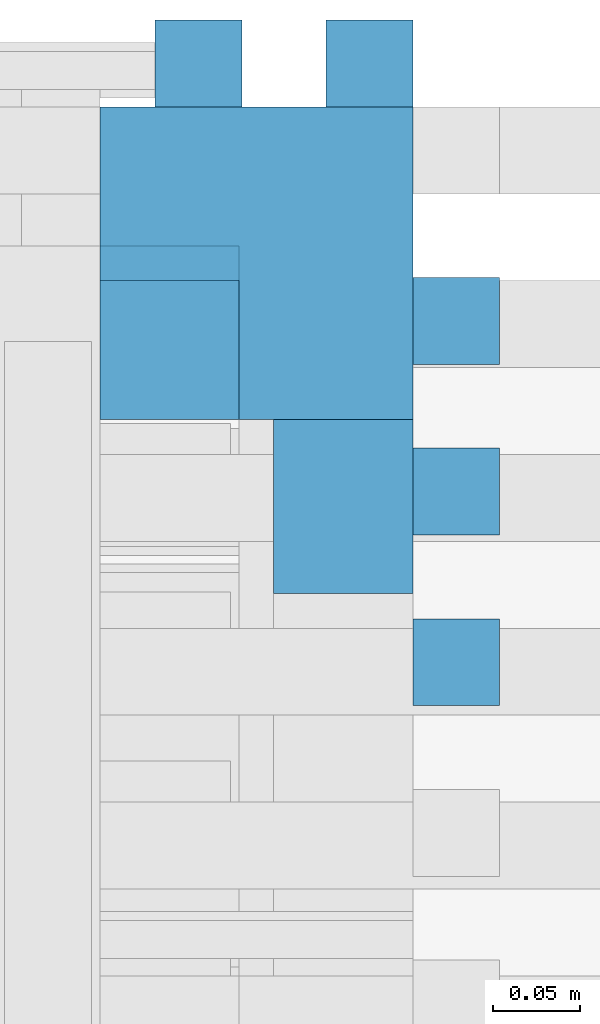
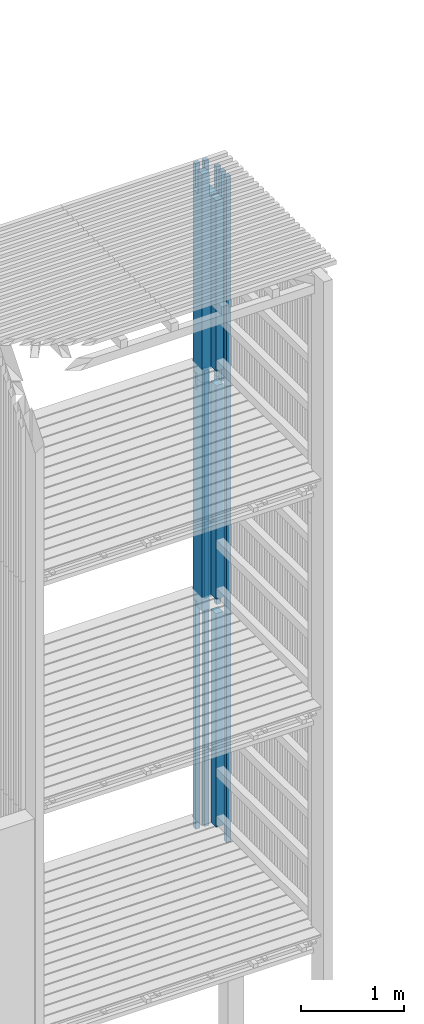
# One storey, part 82 of 182: 17 beams.
"""IFC2X3 building model written with IfcOpenShell, lengths in metres."""

from ifc_helpers import new_model, si_unit, frame, origin, place, context, project, spatial, faceted_brep, element, save


model = new_model("IFC2X3")

# Units and contexts
model_context = context("Model", 3, precision=1e-06, world=origin())
ifc_project = project(units=[si_unit("LENGTHUNIT", "METRE"), si_unit("PLANEANGLEUNIT", "RADIAN")], contexts=[model_context])

# Site, building, storey
site = spatial("IfcSite", under=ifc_project, CompositionType="ELEMENT")
building = spatial("IfcBuilding", under=site, CompositionType="ELEMENT")
storey = spatial("IfcBuildingStorey", under=building, Name="vs", CompositionType="ELEMENT", Elevation=-0.85)

# Beams
placement = place(None, origin())
beam_1_placement = place(placement, frame((26.34999999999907, 12.895077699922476, 7.974999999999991), z_axis=(0.0, -1.0, 0.0), x_axis=(0.0, 0.0, 1.0)))
element("IfcBeam", 1, at=beam_1_placement, inside=storey, Name="Bardage", context=model_context, shape_type="Brep", body=[
    faceted_brep([(0.0, -0.025000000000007, 0.025000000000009), (0.0, 0.025000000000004, 0.025000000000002), (0.0, 0.02499999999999, -0.025000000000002), (0.0, -0.025000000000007, -0.024999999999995), (2.479999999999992, 0.02499999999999, -0.024999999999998), (2.479999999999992, 0.025000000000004, 0.024999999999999), (2.479999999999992, -0.025000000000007, 0.025000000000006), (2.479999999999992, -0.025000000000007, -0.024999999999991), (0.0, 0.025000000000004, 0.025000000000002), (0.0, -0.025000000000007, 0.025000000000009), (2.479999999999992, -0.025000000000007, 0.025000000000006), (2.479999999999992, 0.025000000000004, 0.024999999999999), (0.0, 0.02499999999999, -0.025000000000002), (0.0, 0.025000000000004, 0.025000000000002), (2.479999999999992, 0.025000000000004, 0.024999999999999), (2.479999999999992, 0.02499999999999, -0.024999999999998), (0.0, -0.025000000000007, -0.024999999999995), (0.0, 0.02499999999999, -0.025000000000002), (2.479999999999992, 0.02499999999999, -0.024999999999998), (2.479999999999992, -0.025000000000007, -0.024999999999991), (2.479999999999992, -0.025000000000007, 0.025000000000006), (0.0, -0.025000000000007, 0.025000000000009), (0.0, -0.025000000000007, -0.024999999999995), (2.479999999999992, -0.025000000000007, -0.024999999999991)], [[[0, 1, 2, 3]], [[4, 5, 6, 7]], [[8, 9, 10, 11]], [[12, 13, 14, 15]], [[16, 17, 18, 19]], [[20, 21, 22, 23]]]),
])
beam_2_placement = place(placement, frame((26.251818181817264, 12.895077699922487, 7.974999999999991), z_axis=(0.0, -1.0, 0.0), x_axis=(0.0, 0.0, 1.0)))
element("IfcBeam", 2, at=beam_2_placement, inside=storey, Name="Bardage", context=model_context, shape_type="Brep", body=[
    faceted_brep([(0.0, -0.024999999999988, 0.025000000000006), (0.0, 0.025000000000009, 0.024999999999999), (0.0, 0.024999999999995, -0.025000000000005), (0.0, -0.025000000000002, -0.024999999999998), (2.479999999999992, 0.024999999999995, -0.025000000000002), (2.479999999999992, 0.025000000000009, 0.024999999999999), (2.479999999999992, -0.024999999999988, 0.025000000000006), (2.479999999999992, -0.025000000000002, -0.024999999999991), (0.0, 0.025000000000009, 0.024999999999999), (0.0, -0.024999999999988, 0.025000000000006), (2.479999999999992, -0.024999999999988, 0.025000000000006), (2.479999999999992, 0.025000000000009, 0.024999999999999), (0.0, 0.024999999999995, -0.025000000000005), (0.0, 0.025000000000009, 0.024999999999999), (2.479999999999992, 0.025000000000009, 0.024999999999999), (2.479999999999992, 0.024999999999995, -0.025000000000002), (0.0, -0.025000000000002, -0.024999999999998), (0.0, 0.024999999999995, -0.025000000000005), (2.479999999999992, 0.024999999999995, -0.025000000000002), (2.479999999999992, -0.025000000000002, -0.024999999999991), (2.479999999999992, -0.024999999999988, 0.025000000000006), (0.0, -0.024999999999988, 0.025000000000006), (0.0, -0.025000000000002, -0.024999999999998), (2.479999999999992, -0.025000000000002, -0.024999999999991)], [[[0, 1, 2, 3]], [[4, 5, 6, 7]], [[8, 9, 10, 11]], [[12, 13, 14, 15]], [[16, 17, 18, 19]], [[20, 21, 22, 23]]]),
])
beam_3_placement = place(placement, frame((26.334999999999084, 12.640077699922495, 2.746999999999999), z_axis=(0.0, -1.0, 0.0), x_axis=(0.0, 0.0, 1.0)))
element("IfcBeam", 3, at=beam_3_placement, inside=storey, Name="Support bardage", context=model_context, shape_type="Brep", body=[
    faceted_brep([(2.527961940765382, -0.039999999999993, -0.05), (2.527961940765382, 0.04000000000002, -0.05), (2.527961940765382, 0.04000000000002, 0.050000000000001), (2.527961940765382, -0.039999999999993, 0.050000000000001), (0.0, -0.039999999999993, 0.050000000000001), (0.0, -0.039999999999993, -0.05), (2.527961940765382, -0.039999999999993, -0.05), (2.527961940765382, -0.039999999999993, 0.050000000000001), (0.0, -0.039999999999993, -0.05), (0.0, -0.039999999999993, 0.050000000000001), (0.0, 0.04000000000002, 0.050000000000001), (0.0, 0.04000000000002, -0.05), (2.527961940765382, -0.039999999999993, -0.05), (0.0, -0.039999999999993, -0.05), (0.0, 0.04000000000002, -0.05), (2.527961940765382, 0.04000000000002, -0.05), (2.527961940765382, 0.04000000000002, -0.05), (0.0, 0.04000000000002, -0.05), (0.0, 0.04000000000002, 0.050000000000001), (2.527961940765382, 0.04000000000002, 0.050000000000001), (2.527961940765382, 0.04000000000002, 0.050000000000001), (0.0, 0.04000000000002, 0.050000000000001), (0.0, -0.039999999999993, 0.050000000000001), (2.527961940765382, -0.039999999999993, 0.050000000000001)], [[[0, 1, 2, 3]], [[4, 5, 6, 7]], [[8, 9, 10, 11]], [[12, 13, 14, 15]], [[16, 17, 18, 19]], [[20, 21, 22, 23]]]),
])
beam_4_placement = place(placement, frame((26.251818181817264, 12.895077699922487, 2.575000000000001), z_axis=(0.0, -1.0, 0.0), x_axis=(0.0, 0.0, 1.0)))
element("IfcBeam", 4, at=beam_4_placement, inside=storey, Name="Bardage", context=model_context, shape_type="Brep", body=[
    faceted_brep([(2.699961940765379, -0.024999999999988, 0.025000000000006), (2.699961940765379, -0.025000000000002, -0.024999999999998), (2.699961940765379, 0.024999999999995, -0.025000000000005), (2.699961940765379, 0.025000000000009, 0.024999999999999), (0.0, -0.024999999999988, 0.025000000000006), (2.699961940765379, -0.024999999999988, 0.025000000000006), (2.699961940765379, 0.025000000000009, 0.024999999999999), (0.0, 0.025000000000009, 0.024999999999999), (0.0, -0.024999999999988, 0.025000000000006), (0.0, 0.025000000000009, 0.024999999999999), (0.0, 0.024999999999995, -0.025000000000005), (0.0, -0.025000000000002, -0.024999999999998), (0.0, -0.024999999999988, 0.025000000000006), (0.0, -0.025000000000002, -0.024999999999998), (2.699961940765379, -0.025000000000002, -0.024999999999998), (2.699961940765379, -0.024999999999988, 0.025000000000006), (0.0, -0.025000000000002, -0.024999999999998), (0.0, 0.024999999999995, -0.025000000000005), (2.699961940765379, 0.024999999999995, -0.025000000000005), (2.699961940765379, -0.025000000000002, -0.024999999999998), (0.0, 0.024999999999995, -0.025000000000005), (0.0, 0.025000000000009, 0.024999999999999), (2.699961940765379, 0.025000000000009, 0.024999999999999), (2.699961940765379, 0.024999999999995, -0.025000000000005)], [[[0, 1, 2, 3]], [[4, 5, 6, 7]], [[8, 9, 10, 11]], [[12, 13, 14, 15]], [[16, 17, 18, 19]], [[20, 21, 22, 23]]]),
])
beam_5_placement = place(placement, frame((26.251818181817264, 12.895077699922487, 5.274999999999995), z_axis=(0.0, -1.0, 0.0), x_axis=(0.0, 0.0, 1.0)))
element("IfcBeam", 5, at=beam_5_placement, inside=storey, Name="Bardage", context=model_context, shape_type="Brep", body=[
    faceted_brep([(2.699999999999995, 0.025000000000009, 0.024999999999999), (2.699999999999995, -0.024999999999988, 0.025000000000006), (2.699999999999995, -0.025000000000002, -0.024999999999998), (2.699999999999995, 0.024999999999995, -0.025000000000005), (1e-15, 0.025000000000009, 0.024999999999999), (2.699999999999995, 0.025000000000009, 0.024999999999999), (2.699999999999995, 0.024999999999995, -0.025000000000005), (1e-15, 0.024999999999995, -0.025000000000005), (1e-15, -0.024999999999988, 0.025000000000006), (1e-15, 0.025000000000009, 0.024999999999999), (1e-15, 0.024999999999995, -0.025000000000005), (1e-15, -0.025000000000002, -0.024999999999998), (1e-15, 0.025000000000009, 0.024999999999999), (1e-15, -0.024999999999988, 0.025000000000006), (2.699999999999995, -0.024999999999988, 0.025000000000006), (2.699999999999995, 0.025000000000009, 0.024999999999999), (1e-15, -0.024999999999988, 0.025000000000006), (1e-15, -0.025000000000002, -0.024999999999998), (2.699999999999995, -0.025000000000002, -0.024999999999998), (2.699999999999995, -0.024999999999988, 0.025000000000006), (1e-15, -0.025000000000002, -0.024999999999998), (1e-15, 0.024999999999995, -0.025000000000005), (2.699999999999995, 0.024999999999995, -0.025000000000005), (2.699999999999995, -0.025000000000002, -0.024999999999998)], [[[0, 1, 2, 3]], [[4, 5, 6, 7]], [[8, 9, 10, 11]], [[12, 13, 14, 15]], [[16, 17, 18, 19]], [[20, 21, 22, 23]]]),
])
beam_6_placement = place(placement, frame((26.284999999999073, 12.78007769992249, 7.979999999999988), z_axis=(0.0, -1.0, 0.0), x_axis=(0.0, 0.0, 1.0)))
element("IfcBeam", 6, at=beam_6_placement, inside=storey, Name="Poteau", context=model_context, shape_type="Brep", body=[
    faceted_brep([(2.474999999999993, 0.009999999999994, 0.089999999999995), (2.474999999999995, 0.009999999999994, 0.009999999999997), (2.474999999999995, 0.090000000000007, 0.009999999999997), (2.474999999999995, 0.090000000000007, 0.089999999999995), (2.194999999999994, 0.009999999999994, 0.089999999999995), (2.194999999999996, 0.009999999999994, 0.009999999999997), (2.474999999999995, 0.009999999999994, 0.009999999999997), (2.474999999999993, 0.009999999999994, 0.089999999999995), (2.194999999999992, -0.09, 0.089999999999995), (2.194999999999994, -0.09, -0.090000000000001), (2.194999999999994, 0.090000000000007, -0.090000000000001), (2.194999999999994, 0.090000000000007, 0.009999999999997), (2.194999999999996, 0.009999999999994, 0.009999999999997), (2.194999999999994, 0.009999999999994, 0.089999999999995), (2.474999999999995, 0.090000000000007, 0.009999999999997), (2.474999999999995, 0.009999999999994, 0.009999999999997), (2.194999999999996, 0.009999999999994, 0.009999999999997), (2.194999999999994, 0.090000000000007, 0.009999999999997), (0.059999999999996, 0.090000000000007, -0.010000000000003), (-1e-15, 0.090000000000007, -0.010000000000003), (-1e-15, 0.090000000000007, 0.089999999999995), (2.474999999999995, 0.090000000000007, 0.089999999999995), (2.474999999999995, 0.090000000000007, 0.009999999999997), (2.194999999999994, 0.090000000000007, 0.009999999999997), (2.194999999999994, 0.090000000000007, -0.090000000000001), (0.059999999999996, 0.090000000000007, -0.090000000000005), (0.139999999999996, -0.09, 0.089999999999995), (0.139999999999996, 0.009999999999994, 0.089999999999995), (0.139999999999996, 0.009999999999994, -0.090000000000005), (0.139999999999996, -0.09, -0.090000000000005), (-1e-15, 0.090000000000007, -0.010000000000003), (0.059999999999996, 0.090000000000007, -0.010000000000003), (0.059999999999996, 0.009999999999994, -0.009999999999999), (-1e-15, 0.009999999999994, -0.010000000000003), (-1e-15, 0.090000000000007, 0.089999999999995), (-1e-15, 0.090000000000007, -0.010000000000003), (-1e-15, 0.009999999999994, -0.010000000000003), (-1e-15, 0.009999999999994, 0.089999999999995), (0.139999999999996, 0.009999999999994, -0.090000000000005), (0.139999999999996, 0.009999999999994, 0.089999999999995), (-1e-15, 0.009999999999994, 0.089999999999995), (-1e-15, 0.009999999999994, -0.010000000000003), (0.059999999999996, 0.009999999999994, -0.009999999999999), (0.059999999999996, 0.009999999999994, -0.090000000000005), (0.059999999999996, 0.009999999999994, -0.090000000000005), (0.059999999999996, 0.009999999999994, -0.009999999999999), (0.059999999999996, 0.090000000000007, -0.010000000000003), (0.059999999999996, 0.090000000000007, -0.090000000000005), (0.139999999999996, -0.09, -0.090000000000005), (0.139999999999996, 0.009999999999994, -0.090000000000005), (0.059999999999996, 0.009999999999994, -0.090000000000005), (0.059999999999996, 0.090000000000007, -0.090000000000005), (2.194999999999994, 0.090000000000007, -0.090000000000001), (2.194999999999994, -0.09, -0.090000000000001), (2.194999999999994, -0.09, -0.090000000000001), (2.194999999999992, -0.09, 0.089999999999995), (0.139999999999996, -0.09, 0.089999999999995), (0.139999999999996, -0.09, -0.090000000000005), (-1e-15, 0.090000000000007, 0.089999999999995), (-1e-15, 0.009999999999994, 0.089999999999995), (0.139999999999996, 0.009999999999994, 0.089999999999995), (0.139999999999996, -0.09, 0.089999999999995), (2.194999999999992, -0.09, 0.089999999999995), (2.194999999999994, 0.009999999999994, 0.089999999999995), (2.474999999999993, 0.009999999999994, 0.089999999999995), (2.474999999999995, 0.090000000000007, 0.089999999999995)], [[[0, 1, 2, 3]], [[4, 5, 6, 7]], [[8, 9, 10, 11, 12, 13]], [[14, 15, 16, 17]], [[18, 19, 20, 21, 22, 23, 24, 25]], [[26, 27, 28, 29]], [[30, 31, 32, 33]], [[34, 35, 36, 37]], [[38, 39, 40, 41, 42, 43]], [[44, 45, 46, 47]], [[48, 49, 50, 51, 52, 53]], [[54, 55, 56, 57]], [[58, 59, 60, 61, 62, 63, 64, 65]]]),
])
beam_7_placement = place(placement, frame((26.399999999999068, 12.74689588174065, 7.974999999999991), z_axis=(-1.0, 0.0, 0.0), x_axis=(0.0, 0.0, 1.0)))
element("IfcBeam", 7, at=beam_7_placement, inside=storey, Name="Bardage", context=model_context, shape_type="Brep", body=[
    faceted_brep([(2.479999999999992, -0.025000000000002, 0.024999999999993), (2.479999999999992, -0.025000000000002, -0.025000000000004), (2.479999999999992, 0.025000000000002, -0.025000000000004), (2.479999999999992, 0.025000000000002, 0.024999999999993), (0.0, 0.024999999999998, 0.024999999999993), (0.0, -0.025000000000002, 0.024999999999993), (2.479999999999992, -0.025000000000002, 0.024999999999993), (2.479999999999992, 0.025000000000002, 0.024999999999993), (0.0, -0.025000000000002, 0.024999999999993), (0.0, 0.024999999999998, 0.024999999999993), (0.0, 0.024999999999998, -0.025000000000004), (0.0, -0.025000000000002, -0.025000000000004), (0.0, 0.024999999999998, -0.025000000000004), (0.0, 0.024999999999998, 0.024999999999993), (2.479999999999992, 0.025000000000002, 0.024999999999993), (2.479999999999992, 0.025000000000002, -0.025000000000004), (0.0, -0.025000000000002, -0.025000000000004), (0.0, 0.024999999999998, -0.025000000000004), (2.479999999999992, 0.025000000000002, -0.025000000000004), (2.479999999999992, -0.025000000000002, -0.025000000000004), (2.479999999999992, -0.025000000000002, 0.024999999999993), (0.0, -0.025000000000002, 0.024999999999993), (0.0, -0.025000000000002, -0.025000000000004), (2.479999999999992, -0.025000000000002, -0.025000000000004)], [[[0, 1, 2, 3]], [[4, 5, 6, 7]], [[8, 9, 10, 11]], [[12, 13, 14, 15]], [[16, 17, 18, 19]], [[20, 21, 22, 23]]]),
])
beam_8_placement = place(placement, frame((26.399999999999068, 12.648714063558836, 7.974999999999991), z_axis=(-1.0, 0.0, 0.0), x_axis=(0.0, 0.0, 1.0)))
element("IfcBeam", 8, at=beam_8_placement, inside=storey, Name="Bardage", context=model_context, shape_type="Brep", body=[
    faceted_brep([(2.479999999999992, -0.025000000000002, 0.024999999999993), (2.479999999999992, -0.025000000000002, -0.025000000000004), (2.479999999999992, 0.024999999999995, -0.025000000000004), (2.479999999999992, 0.024999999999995, 0.024999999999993), (0.0, 0.024999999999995, 0.024999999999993), (0.0, -0.025000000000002, 0.024999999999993), (2.479999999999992, -0.025000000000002, 0.024999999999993), (2.479999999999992, 0.024999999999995, 0.024999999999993), (0.0, -0.025000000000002, 0.024999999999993), (0.0, 0.024999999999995, 0.024999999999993), (0.0, 0.024999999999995, -0.025000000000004), (0.0, -0.025000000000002, -0.025000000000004), (0.0, 0.024999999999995, -0.025000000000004), (0.0, 0.024999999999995, 0.024999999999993), (2.479999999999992, 0.024999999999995, 0.024999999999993), (2.479999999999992, 0.024999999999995, -0.025000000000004), (0.0, -0.025000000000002, -0.025000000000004), (0.0, 0.024999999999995, -0.025000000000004), (2.479999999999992, 0.024999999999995, -0.025000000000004), (2.479999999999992, -0.025000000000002, -0.025000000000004), (2.479999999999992, -0.025000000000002, 0.024999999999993), (0.0, -0.025000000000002, 0.024999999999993), (0.0, -0.025000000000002, -0.025000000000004), (2.479999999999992, -0.025000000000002, -0.025000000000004)], [[[0, 1, 2, 3]], [[4, 5, 6, 7]], [[8, 9, 10, 11]], [[12, 13, 14, 15]], [[16, 17, 18, 19]], [[20, 21, 22, 23]]]),
])
beam_9_placement = place(placement, frame((26.399999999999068, 12.550532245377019, 2.575000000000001), z_axis=(-1.0, 0.0, 0.0), x_axis=(0.0, 0.0, 1.0)))
element("IfcBeam", 9, at=beam_9_placement, inside=storey, Name="Bardage", context=model_context, shape_type="Brep", body=[
    faceted_brep([(0.0, -0.025000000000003, 0.024999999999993), (0.0, 0.024999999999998, 0.024999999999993), (0.0, 0.024999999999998, -0.025000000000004), (0.0, -0.025000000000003, -0.025000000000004), (2.699961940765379, 0.024999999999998, -0.025000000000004), (2.699961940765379, 0.024999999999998, 0.024999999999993), (2.699961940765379, -0.025000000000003, 0.024999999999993), (2.699961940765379, -0.025000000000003, -0.025000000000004), (0.0, -0.025000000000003, -0.025000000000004), (0.0, 0.024999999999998, -0.025000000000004), (2.699961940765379, 0.024999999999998, -0.025000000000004), (2.699961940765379, -0.025000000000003, -0.025000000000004), (2.699961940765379, 0.024999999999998, -0.025000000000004), (0.0, 0.024999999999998, -0.025000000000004), (0.0, 0.024999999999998, 0.024999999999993), (2.699961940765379, 0.024999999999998, 0.024999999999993), (2.699961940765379, 0.024999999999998, 0.024999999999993), (0.0, 0.024999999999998, 0.024999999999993), (0.0, -0.025000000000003, 0.024999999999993), (2.699961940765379, -0.025000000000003, 0.024999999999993), (2.699961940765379, -0.025000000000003, 0.024999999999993), (0.0, -0.025000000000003, 0.024999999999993), (0.0, -0.025000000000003, -0.025000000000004), (2.699961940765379, -0.025000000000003, -0.025000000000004)], [[[0, 1, 2, 3]], [[4, 5, 6, 7]], [[8, 9, 10, 11]], [[12, 13, 14, 15]], [[16, 17, 18, 19]], [[20, 21, 22, 23]]]),
])
beam_10_placement = place(placement, frame((26.34999999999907, 12.895077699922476, 5.274999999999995), z_axis=(0.0, -1.0, 0.0), x_axis=(0.0, 0.0, 1.0)))
element("IfcBeam", 10, at=beam_10_placement, inside=storey, Name="Bardage", context=model_context, shape_type="Brep", body=[
    faceted_brep([(2.699999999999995, 0.025000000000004, 0.025000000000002), (2.699999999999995, -0.025000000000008, 0.025000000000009), (2.699999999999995, -0.025000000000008, -0.024999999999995), (2.699999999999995, 0.02499999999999, -0.025000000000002), (1e-15, 0.025000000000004, 0.025000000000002), (2.699999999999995, 0.025000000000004, 0.025000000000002), (2.699999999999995, 0.02499999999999, -0.025000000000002), (1e-15, 0.02499999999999, -0.025000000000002), (1e-15, -0.025000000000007, 0.025000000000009), (1e-15, 0.025000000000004, 0.025000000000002), (1e-15, 0.02499999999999, -0.025000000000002), (1e-15, -0.025000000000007, -0.024999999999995), (1e-15, 0.025000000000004, 0.025000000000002), (1e-15, -0.025000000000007, 0.025000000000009), (2.699999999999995, -0.025000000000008, 0.025000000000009), (2.699999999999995, 0.025000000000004, 0.025000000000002), (1e-15, -0.025000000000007, 0.025000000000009), (1e-15, -0.025000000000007, -0.024999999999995), (2.699999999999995, -0.025000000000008, -0.024999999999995), (2.699999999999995, -0.025000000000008, 0.025000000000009), (1e-15, -0.025000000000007, -0.024999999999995), (1e-15, 0.02499999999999, -0.025000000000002), (2.699999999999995, 0.02499999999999, -0.025000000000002), (2.699999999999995, -0.025000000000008, -0.024999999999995)], [[[0, 1, 2, 3]], [[4, 5, 6, 7]], [[8, 9, 10, 11]], [[12, 13, 14, 15]], [[16, 17, 18, 19]], [[20, 21, 22, 23]]]),
])
beam_11_placement = place(placement, frame((26.334999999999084, 12.640077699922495, 8.146999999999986), z_axis=(0.0, -1.0, 0.0), x_axis=(0.0, 0.0, 1.0)))
element("IfcBeam", 11, at=beam_11_placement, inside=storey, Name="Support bardage", context=model_context, shape_type="Brep", body=[
    faceted_brep([(2.017999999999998, -0.039999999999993, -0.05), (2.017999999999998, 0.04000000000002, -0.05), (2.017999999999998, 0.04000000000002, 0.050000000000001), (2.017999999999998, -0.039999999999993, 0.050000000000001), (1e-15, -0.039999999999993, 0.050000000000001), (1e-15, 0.04000000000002, 0.050000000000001), (1e-15, 0.04000000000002, -0.05), (1e-15, -0.039999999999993, -0.05), (1e-15, -0.039999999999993, 0.050000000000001), (1e-15, -0.039999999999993, -0.05), (2.017999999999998, -0.039999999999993, -0.05), (2.017999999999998, -0.039999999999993, 0.050000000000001), (1e-15, 0.04000000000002, 0.050000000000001), (1e-15, -0.039999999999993, 0.050000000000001), (2.017999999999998, -0.039999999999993, 0.050000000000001), (2.017999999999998, 0.04000000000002, 0.050000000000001), (1e-15, 0.04000000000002, -0.05), (1e-15, 0.04000000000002, 0.050000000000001), (2.017999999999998, 0.04000000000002, 0.050000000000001), (2.017999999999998, 0.04000000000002, -0.05), (1e-15, -0.039999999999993, -0.05), (1e-15, 0.04000000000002, -0.05), (2.017999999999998, 0.04000000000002, -0.05), (2.017999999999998, -0.039999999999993, -0.05)], [[[0, 1, 2, 3]], [[4, 5, 6, 7]], [[8, 9, 10, 11]], [[12, 13, 14, 15]], [[16, 17, 18, 19]], [[20, 21, 22, 23]]]),
])
beam_12_placement = place(placement, frame((26.334999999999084, 12.640077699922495, 5.446999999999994), z_axis=(0.0, -1.0, 0.0), x_axis=(0.0, 0.0, 1.0)))
element("IfcBeam", 12, at=beam_12_placement, inside=storey, Name="Support bardage", context=model_context, shape_type="Brep", body=[
    faceted_brep([(2.527999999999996, -0.039999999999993, 0.050000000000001), (2.527999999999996, -0.039999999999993, -0.05), (2.527999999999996, 0.04000000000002, -0.05), (2.527999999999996, 0.04000000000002, 0.050000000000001), (0.0, 0.04000000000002, 0.050000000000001), (0.0, -0.039999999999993, 0.050000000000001), (2.527999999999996, -0.039999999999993, 0.050000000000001), (2.527999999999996, 0.04000000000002, 0.050000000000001), (0.0, -0.039999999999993, 0.050000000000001), (0.0, 0.04000000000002, 0.050000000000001), (0.0, 0.04000000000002, -0.05), (0.0, -0.039999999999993, -0.05), (2.527999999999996, -0.039999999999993, 0.050000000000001), (0.0, -0.039999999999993, 0.050000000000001), (0.0, -0.039999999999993, -0.05), (2.527999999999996, -0.039999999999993, -0.05), (2.527999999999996, -0.039999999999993, -0.05), (0.0, -0.039999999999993, -0.05), (0.0, 0.04000000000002, -0.05), (2.527999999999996, 0.04000000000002, -0.05), (2.527999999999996, 0.04000000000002, -0.05), (0.0, 0.04000000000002, -0.05), (0.0, 0.04000000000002, 0.050000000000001), (2.527999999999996, 0.04000000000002, 0.050000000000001)], [[[0, 1, 2, 3]], [[4, 5, 6, 7]], [[8, 9, 10, 11]], [[12, 13, 14, 15]], [[16, 17, 18, 19]], [[20, 21, 22, 23]]]),
])
beam_13_placement = place(placement, frame((26.399999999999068, 12.550532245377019, 7.974999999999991), z_axis=(-1.0, 0.0, 0.0), x_axis=(0.0, 0.0, 1.0)))
element("IfcBeam", 13, at=beam_13_placement, inside=storey, Name="Bardage", context=model_context, shape_type="Brep", body=[
    faceted_brep([(2.479999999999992, -0.025000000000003, 0.024999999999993), (2.479999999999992, -0.025000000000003, -0.025000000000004), (2.479999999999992, 0.024999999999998, -0.025000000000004), (2.479999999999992, 0.024999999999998, 0.024999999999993), (0.0, 0.024999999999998, 0.024999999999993), (0.0, -0.025000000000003, 0.024999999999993), (2.479999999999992, -0.025000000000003, 0.024999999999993), (2.479999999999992, 0.024999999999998, 0.024999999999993), (0.0, -0.025000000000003, 0.024999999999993), (0.0, 0.024999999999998, 0.024999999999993), (0.0, 0.024999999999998, -0.025000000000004), (0.0, -0.025000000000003, -0.025000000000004), (0.0, 0.024999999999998, -0.025000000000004), (0.0, 0.024999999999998, 0.024999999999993), (2.479999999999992, 0.024999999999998, 0.024999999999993), (2.479999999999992, 0.024999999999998, -0.025000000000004), (0.0, -0.025000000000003, -0.025000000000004), (0.0, 0.024999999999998, -0.025000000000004), (2.479999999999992, 0.024999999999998, -0.025000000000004), (2.479999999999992, -0.025000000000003, -0.025000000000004), (2.479999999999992, -0.025000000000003, 0.024999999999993), (0.0, -0.025000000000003, 0.024999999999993), (0.0, -0.025000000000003, -0.025000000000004), (2.479999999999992, -0.025000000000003, -0.025000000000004)], [[[0, 1, 2, 3]], [[4, 5, 6, 7]], [[8, 9, 10, 11]], [[12, 13, 14, 15]], [[16, 17, 18, 19]], [[20, 21, 22, 23]]]),
])
beam_14_placement = place(placement, frame((26.399999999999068, 12.550532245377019, 5.274999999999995), z_axis=(-1.0, 0.0, 0.0), x_axis=(0.0, 0.0, 1.0)))
element("IfcBeam", 14, at=beam_14_placement, inside=storey, Name="Bardage", context=model_context, shape_type="Brep", body=[
    faceted_brep([(1e-15, -0.025000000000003, 0.024999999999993), (1e-15, 0.024999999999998, 0.024999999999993), (1e-15, 0.024999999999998, -0.025000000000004), (1e-15, -0.025000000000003, -0.025000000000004), (2.699999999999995, -0.025000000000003, -0.025000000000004), (2.699999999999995, 0.024999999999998, -0.025000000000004), (2.699999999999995, 0.024999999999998, 0.024999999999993), (2.699999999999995, -0.025000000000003, 0.024999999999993), (1e-15, -0.025000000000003, 0.024999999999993), (1e-15, -0.025000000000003, -0.025000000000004), (2.699999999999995, -0.025000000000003, -0.025000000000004), (2.699999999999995, -0.025000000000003, 0.024999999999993), (2.699999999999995, -0.025000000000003, -0.025000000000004), (1e-15, -0.025000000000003, -0.025000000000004), (1e-15, 0.024999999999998, -0.025000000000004), (2.699999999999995, 0.024999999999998, -0.025000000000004), (2.699999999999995, 0.024999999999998, -0.025000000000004), (1e-15, 0.024999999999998, -0.025000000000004), (1e-15, 0.024999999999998, 0.024999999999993), (2.699999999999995, 0.024999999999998, 0.024999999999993), (2.699999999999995, 0.024999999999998, 0.024999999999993), (1e-15, 0.024999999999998, 0.024999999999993), (1e-15, -0.025000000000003, 0.024999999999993), (2.699999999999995, -0.025000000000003, 0.024999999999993)], [[[0, 1, 2, 3]], [[4, 5, 6, 7]], [[8, 9, 10, 11]], [[12, 13, 14, 15]], [[16, 17, 18, 19]], [[20, 21, 22, 23]]]),
])
beam_15_placement = place(placement, frame((26.284999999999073, 12.78007769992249, 5.279999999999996), z_axis=(0.0, -1.0, 0.0), x_axis=(0.0, 0.0, 1.0)))
element("IfcBeam", 15, at=beam_15_placement, inside=storey, Name="Poteau", context=model_context, shape_type="Brep", body=[
    faceted_brep([(0.139999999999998, -0.09, 0.089999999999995), (0.139999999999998, 0.009999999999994, 0.089999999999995), (0.139999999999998, 0.009999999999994, -0.090000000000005), (0.139999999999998, -0.09, -0.090000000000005), (0.059999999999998, 0.090000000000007, -0.010000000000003), (0.059999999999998, 0.009999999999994, -0.009999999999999), (-1e-15, 0.009999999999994, -0.009999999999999), (-1e-15, 0.090000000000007, -0.009999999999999), (-1e-15, 0.090000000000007, 0.089999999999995), (-1e-15, 0.090000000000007, -0.009999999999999), (-1e-15, 0.009999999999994, -0.009999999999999), (-1e-15, 0.009999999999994, 0.089999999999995), (0.139999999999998, 0.009999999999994, -0.090000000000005), (0.139999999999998, 0.009999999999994, 0.089999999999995), (-1e-15, 0.009999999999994, 0.089999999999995), (-1e-15, 0.009999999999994, -0.009999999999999), (0.059999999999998, 0.009999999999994, -0.009999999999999), (0.059999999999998, 0.009999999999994, -0.090000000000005), (0.059999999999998, 0.009999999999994, -0.090000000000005), (0.059999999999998, 0.009999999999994, -0.009999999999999), (0.059999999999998, 0.090000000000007, -0.010000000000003), (0.059999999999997, 0.090000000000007, -0.090000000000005), (0.139999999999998, -0.09, -0.090000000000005), (0.139999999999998, 0.009999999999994, -0.090000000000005), (0.059999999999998, 0.009999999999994, -0.090000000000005), (0.059999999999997, 0.090000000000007, -0.090000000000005), (2.559999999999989, 0.090000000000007, -0.090000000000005), (2.559999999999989, -0.09, -0.090000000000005), (2.559999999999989, -0.09, 0.089999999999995), (0.139999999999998, -0.09, 0.089999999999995), (0.139999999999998, -0.09, -0.090000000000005), (2.559999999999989, -0.09, -0.090000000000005), (2.559999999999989, 0.090000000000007, -0.010000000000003), (2.559999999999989, 0.090000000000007, -0.090000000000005), (0.059999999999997, 0.090000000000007, -0.090000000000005), (0.059999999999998, 0.090000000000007, -0.010000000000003), (-1e-15, 0.090000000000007, -0.009999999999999), (-1e-15, 0.090000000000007, 0.089999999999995), (2.69999999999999, 0.090000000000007, 0.089999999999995), (2.69999999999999, 0.090000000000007, -0.009999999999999), (2.69999999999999, 0.009999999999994, 0.089999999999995), (2.69999999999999, 0.090000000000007, 0.089999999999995), (-1e-15, 0.090000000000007, 0.089999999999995), (-1e-15, 0.009999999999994, 0.089999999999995), (0.139999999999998, 0.009999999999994, 0.089999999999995), (0.139999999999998, -0.09, 0.089999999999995), (2.559999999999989, -0.09, 0.089999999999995), (2.559999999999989, 0.009999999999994, 0.089999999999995), (2.559999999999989, 0.090000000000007, -0.010000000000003), (2.69999999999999, 0.090000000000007, -0.009999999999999), (2.69999999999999, 0.009999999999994, -0.010000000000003), (2.559999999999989, 0.009999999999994, -0.010000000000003), (2.559999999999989, 0.009999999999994, 0.089999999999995), (2.559999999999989, -0.09, 0.089999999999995), (2.559999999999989, -0.09, -0.090000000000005), (2.559999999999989, 0.090000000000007, -0.090000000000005), (2.559999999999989, 0.090000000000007, -0.010000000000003), (2.559999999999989, 0.009999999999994, -0.010000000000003), (2.69999999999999, 0.009999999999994, 0.089999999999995), (2.559999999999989, 0.009999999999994, 0.089999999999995), (2.559999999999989, 0.009999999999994, -0.010000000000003), (2.69999999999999, 0.009999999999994, -0.010000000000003), (2.69999999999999, 0.090000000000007, 0.089999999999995), (2.69999999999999, 0.009999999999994, 0.089999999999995), (2.69999999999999, 0.009999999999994, -0.010000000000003), (2.69999999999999, 0.090000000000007, -0.009999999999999)], [[[0, 1, 2, 3]], [[4, 5, 6, 7]], [[8, 9, 10, 11]], [[12, 13, 14, 15, 16, 17]], [[18, 19, 20, 21]], [[22, 23, 24, 25, 26, 27]], [[28, 29, 30, 31]], [[32, 33, 34, 35, 36, 37, 38, 39]], [[40, 41, 42, 43, 44, 45, 46, 47]], [[48, 49, 50, 51]], [[52, 53, 54, 55, 56, 57]], [[58, 59, 60, 61]], [[62, 63, 64, 65]]]),
])
beam_16_placement = place(placement, frame((26.34999999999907, 12.895077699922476, 2.575000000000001), z_axis=(0.0, -1.0, 0.0), x_axis=(0.0, 0.0, 1.0)))
element("IfcBeam", 16, at=beam_16_placement, inside=storey, Name="Bardage", context=model_context, shape_type="Brep", body=[
    faceted_brep([(2.699961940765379, -0.025000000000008, 0.025000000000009), (2.699961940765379, -0.025000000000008, -0.024999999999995), (2.699961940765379, 0.02499999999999, -0.025000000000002), (2.699961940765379, 0.025000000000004, 0.025000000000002), (0.0, -0.025000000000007, 0.025000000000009), (2.699961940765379, -0.025000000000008, 0.025000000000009), (2.699961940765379, 0.025000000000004, 0.025000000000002), (0.0, 0.025000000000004, 0.025000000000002), (0.0, -0.025000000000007, 0.025000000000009), (0.0, 0.025000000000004, 0.025000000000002), (0.0, 0.02499999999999, -0.025000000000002), (0.0, -0.025000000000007, -0.024999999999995), (0.0, -0.025000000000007, 0.025000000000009), (0.0, -0.025000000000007, -0.024999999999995), (2.699961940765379, -0.025000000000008, -0.024999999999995), (2.699961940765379, -0.025000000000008, 0.025000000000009), (0.0, -0.025000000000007, -0.024999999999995), (0.0, 0.02499999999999, -0.025000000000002), (2.699961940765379, 0.02499999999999, -0.025000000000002), (2.699961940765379, -0.025000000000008, -0.024999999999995), (0.0, 0.02499999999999, -0.025000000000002), (0.0, 0.025000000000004, 0.025000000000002), (2.699961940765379, 0.025000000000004, 0.025000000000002), (2.699961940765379, 0.02499999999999, -0.025000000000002)], [[[0, 1, 2, 3]], [[4, 5, 6, 7]], [[8, 9, 10, 11]], [[12, 13, 14, 15]], [[16, 17, 18, 19]], [[20, 21, 22, 23]]]),
])
beam_17_placement = place(placement, frame((26.399999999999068, 12.74689588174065, 5.274999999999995), z_axis=(-1.0, 0.0, 0.0), x_axis=(0.0, 0.0, 1.0)))
element("IfcBeam", 17, at=beam_17_placement, inside=storey, Name="Bardage", context=model_context, shape_type="Brep", body=[
    faceted_brep([(1e-15, -0.025000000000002, 0.024999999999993), (1e-15, 0.024999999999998, 0.024999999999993), (1e-15, 0.024999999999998, -0.025000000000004), (1e-15, -0.025000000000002, -0.025000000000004), (2.699999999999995, -0.025000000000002, -0.025000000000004), (2.699999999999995, 0.025000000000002, -0.025000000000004), (2.699999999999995, 0.025000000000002, 0.024999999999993), (2.699999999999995, -0.025000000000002, 0.024999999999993), (1e-15, -0.025000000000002, 0.024999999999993), (1e-15, -0.025000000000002, -0.025000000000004), (2.699999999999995, -0.025000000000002, -0.025000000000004), (2.699999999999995, -0.025000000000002, 0.024999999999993), (2.699999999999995, -0.025000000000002, -0.025000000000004), (1e-15, -0.025000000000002, -0.025000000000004), (1e-15, 0.024999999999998, -0.025000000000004), (2.699999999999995, 0.025000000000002, -0.025000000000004), (2.699999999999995, 0.025000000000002, -0.025000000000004), (1e-15, 0.024999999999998, -0.025000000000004), (1e-15, 0.024999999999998, 0.024999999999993), (2.699999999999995, 0.025000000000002, 0.024999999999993), (2.699999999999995, 0.025000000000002, 0.024999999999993), (1e-15, 0.024999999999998, 0.024999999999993), (1e-15, -0.025000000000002, 0.024999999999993), (2.699999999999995, -0.025000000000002, 0.024999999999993)], [[[0, 1, 2, 3]], [[4, 5, 6, 7]], [[8, 9, 10, 11]], [[12, 13, 14, 15]], [[16, 17, 18, 19]], [[20, 21, 22, 23]]]),
])

save(model, "model.ifc")
